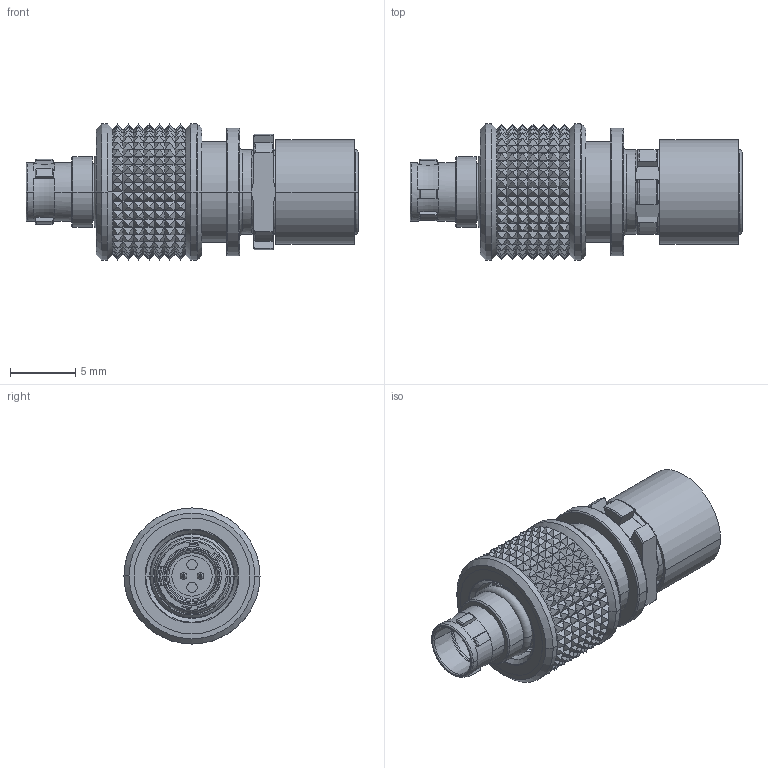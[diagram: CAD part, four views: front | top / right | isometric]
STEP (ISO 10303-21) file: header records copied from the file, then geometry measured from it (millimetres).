
FILE_DESCRIPTION((''),'2;1');
FILE_NAME('00160273--','2019-07-30T',('DTurza'),(''),'PRO/ENGINEER BY PARAMETRIC TECHNOLOGY CORPORATION, 2016360','PRO/ENGINEER BY PARAMETRIC TECHNOLOGY CORPORATION, 2016360','');
FILE_SCHEMA(('AUTOMOTIVE_DESIGN { 1 0 10303 214 1 1 1 1 }'));
Length unit declared in the file: millimetre
Products named in the file (1): 00160273--
Bounding box: 25.5 x 10.45 x 10.45 mm (x, y, z)
Volume: 733.8 mm3; surface area: 2167.9 mm2
Topology: 1 solids, 3 shells, 1565 faces, 3106 edges, 1561 vertices
Faces by surface type: plane 683, cone 664, cylinder 123, torus 87, bspline 4, sphere 4
Entity records: 53169 total; most frequent: CARTESIAN_POINT 12170, ORIENTED_EDGE 6196, DIRECTION 6127, EDGE_CURVE 3098, AXIS2_PLACEMENT_3D 2753, EDGE_LOOP 1599, FACE_OUTER_BOUND 1565, ADVANCED_FACE 1565
